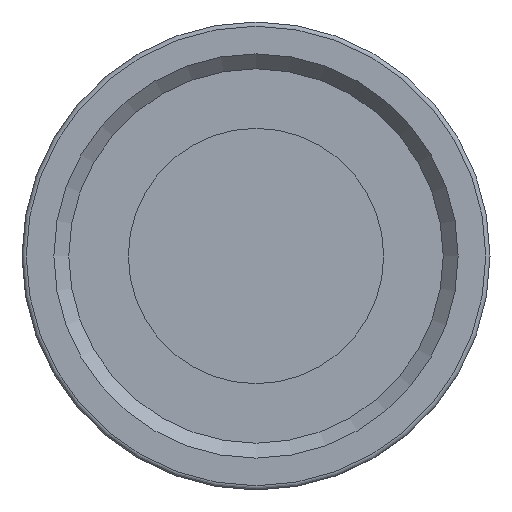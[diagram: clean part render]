
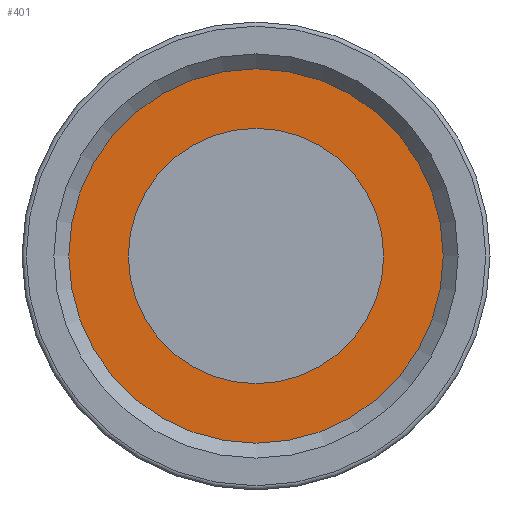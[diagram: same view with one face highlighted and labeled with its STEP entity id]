
A CAD part, front view. The second image highlights one B-rep face of the part: STEP entity #401.
In plain terms, the highlighted planar face has unit normal (0, -1, 0).
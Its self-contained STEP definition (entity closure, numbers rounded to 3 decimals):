
#112=CARTESIAN_POINT('',(6.,-15.,0.0));
#113=VERTEX_POINT('',#112);
#114=CARTESIAN_POINT('',(0.,-15.,0.0));
#115=DIRECTION('',(0.0,-1.0,0.0));
#116=DIRECTION('',(1.0,0.0,0.0));
#117=AXIS2_PLACEMENT_3D('',#114,#115,#116);
#118=CIRCLE('',#117,6.);
#119=EDGE_CURVE('',#113,#113,#118,.T.);
#375=CARTESIAN_POINT('',(8.8,-15.,0.0));
#376=VERTEX_POINT('',#375);
#377=CARTESIAN_POINT('',(0.,-15.,0.0));
#378=DIRECTION('',(0.0,-1.0,0.0));
#379=DIRECTION('',(1.0,0.0,0.0));
#380=AXIS2_PLACEMENT_3D('',#377,#378,#379);
#381=CIRCLE('',#380,8.8);
#382=EDGE_CURVE('',#376,#376,#381,.T.);
#390=CARTESIAN_POINT('',(7.4,-15.,0.0));
#391=DIRECTION('',(0.0,-1.0,0.0));
#392=DIRECTION('',(0.0,0.0,-1.0));
#393=AXIS2_PLACEMENT_3D('',#390,#391,#392);
#394=PLANE('',#393);
#395=ORIENTED_EDGE('',*,*,#382,.T.);
#396=EDGE_LOOP('',(#395));
#397=FACE_OUTER_BOUND('',#396,.T.);
#398=ORIENTED_EDGE('',*,*,#119,.F.);
#399=EDGE_LOOP('',(#398));
#400=FACE_BOUND('',#399,.T.);
#401=ADVANCED_FACE('',(#397,#400),#394,.T.);
